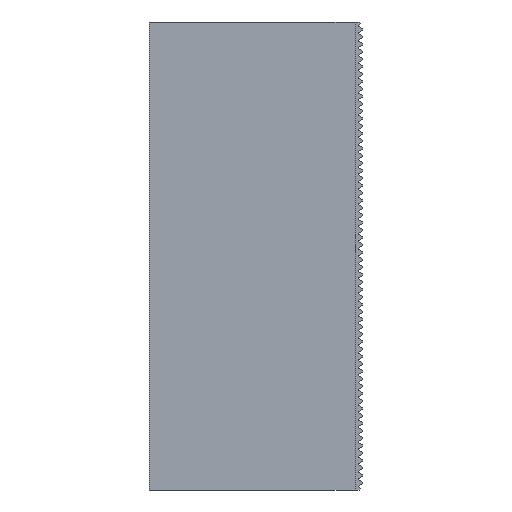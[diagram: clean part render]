
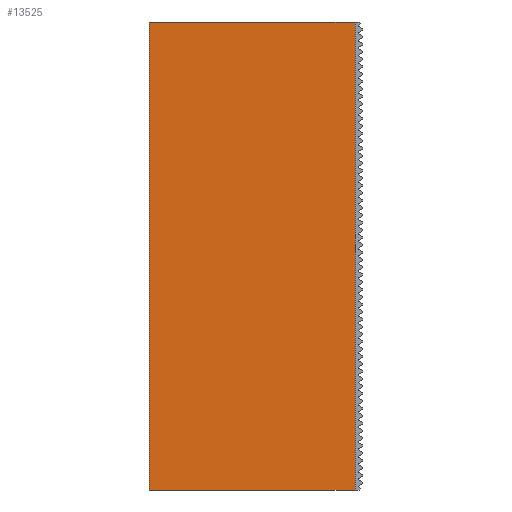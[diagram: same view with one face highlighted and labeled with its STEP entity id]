
A CAD part, left-side view. The second image highlights one B-rep face of the part: STEP entity #13525.
In plain terms, the highlighted planar face has unit normal (-1, 0, 0).
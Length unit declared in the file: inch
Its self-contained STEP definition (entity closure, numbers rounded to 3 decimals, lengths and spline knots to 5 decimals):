
#1113 = VECTOR ( 'NONE', #10053, 39.37008 ) ;
#1458 = VERTEX_POINT ( 'NONE', #17715 ) ;
#1671 = CARTESIAN_POINT ( 'NONE',  ( -3., -0.13567, -3.73425 ) ) ;
#2356 = CARTESIAN_POINT ( 'NONE',  ( -3., -0.13567, -0.01575 ) ) ;
#2531 = CARTESIAN_POINT ( 'NONE',  ( -3., 0., 0. ) ) ;
#3301 = VECTOR ( 'NONE', #13891, 39.37008 ) ;
#3501 = VERTEX_POINT ( 'NONE', #17600 ) ;
#4052 = CARTESIAN_POINT ( 'NONE',  ( -3., -0.13567, -6.46585 ) ) ;
#4081 = LINE ( 'NONE', #10954, #13979 ) ;
#4280 = EDGE_CURVE ( 'NONE', #1458, #3501, #4081, .T. ) ;
#4451 = EDGE_CURVE ( 'NONE', #12823, #5471, #14987, .T. ) ;
#4495 = ORIENTED_EDGE ( 'NONE', *, *, #11314, .F. ) ;
#5471 = VERTEX_POINT ( 'NONE', #2356 ) ;
#5890 = LINE ( 'NONE', #11402, #1113 ) ;
#6104 = VECTOR ( 'NONE', #12977, 39.37008 ) ;
#7020 = DIRECTION ( 'NONE',  ( 0., 0., 1. ) ) ;
#7051 = AXIS2_PLACEMENT_3D ( 'NONE', #2531, #14984, #7020 ) ;
#9281 = LINE ( 'NONE', #15778, #6104 ) ;
#9483 = PLANE ( 'NONE',  #7051 ) ;
#10053 = DIRECTION ( 'NONE',  ( 0., -1., 0. ) ) ;
#10954 = CARTESIAN_POINT ( 'NONE',  ( -3., 1.5, -0.01575 ) ) ;
#11314 = EDGE_CURVE ( 'NONE', #3501, #5471, #5890, .T. ) ;
#11402 = CARTESIAN_POINT ( 'NONE',  ( -3., 0., -0.01575 ) ) ;
#12217 = DIRECTION ( 'NONE',  ( 0., 0., 1. ) ) ;
#12823 = VERTEX_POINT ( 'NONE', #1671 ) ;
#12977 = DIRECTION ( 'NONE',  ( 0., 1., 0. ) ) ;
#13525 = ADVANCED_FACE ( 'NONE', ( #13807 ), #9483, .T. ) ;
#13744 = EDGE_CURVE ( 'NONE', #12823, #1458, #9281, .T. ) ;
#13791 = ORIENTED_EDGE ( 'NONE', *, *, #4280, .F. ) ;
#13807 = FACE_OUTER_BOUND ( 'NONE', #13965, .T. ) ;
#13891 = DIRECTION ( 'NONE',  ( 0., 0., 1. ) ) ;
#13965 = EDGE_LOOP ( 'NONE', ( #16888, #15879, #4495, #13791 ) ) ;
#13979 = VECTOR ( 'NONE', #12217, 39.37008 ) ;
#14984 = DIRECTION ( 'NONE',  ( -1., 0., 0. ) ) ;
#14987 = LINE ( 'NONE', #4052, #3301 ) ;
#15778 = CARTESIAN_POINT ( 'NONE',  ( -3., 1.5, -3.73425 ) ) ;
#15879 = ORIENTED_EDGE ( 'NONE', *, *, #4451, .T. ) ;
#16888 = ORIENTED_EDGE ( 'NONE', *, *, #13744, .F. ) ;
#17600 = CARTESIAN_POINT ( 'NONE',  ( -3., 1.5, -0.01575 ) ) ;
#17715 = CARTESIAN_POINT ( 'NONE',  ( -3., 1.5, -3.73425 ) ) ;
